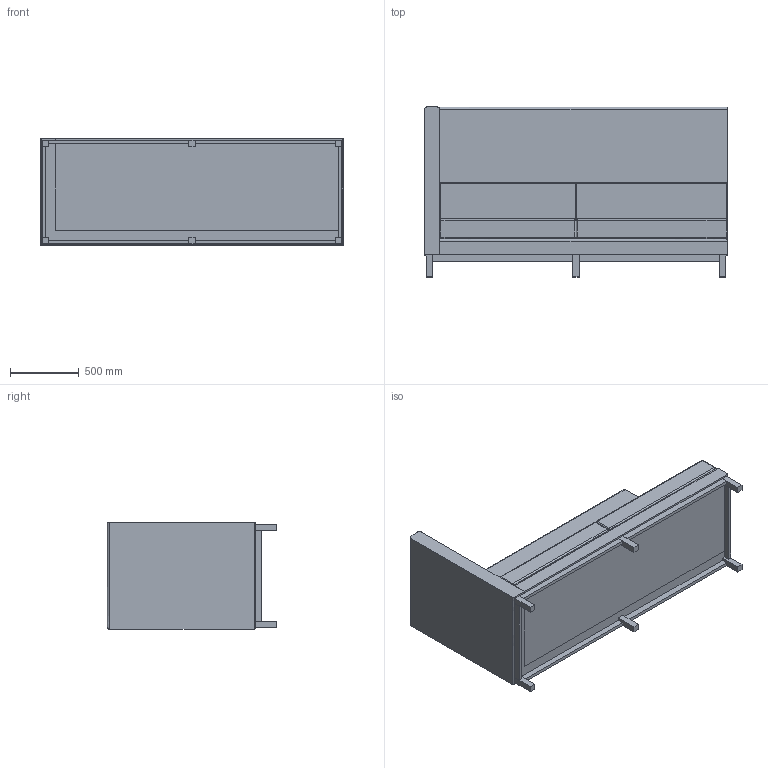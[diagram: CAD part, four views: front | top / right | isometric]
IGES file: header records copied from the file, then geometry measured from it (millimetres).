
Start section: SolidWorks IGES file using analytic representation for surfaces
Global section: file name: P:\3D CAD BLOCKS\ARTHUR CITYSCAPE\HB Plain Large RH\IGS\ART-HB-PLAIN-LARGE-RH-ART-CITY-RH.IGS; native system: SolidWorks 2012; preprocessor: SolidWorks 2012; author: tom; date: 160523.091830; units: millimetre
Bounding box: 2210 x 1240 x 780 mm (x, y, z)
Surface area: 16586263.8 mm2 (no closed solid volume)
Topology: 0 solids, 0 shells, 200 faces, 972 edges, 965 vertices
Faces by surface type: bspline 110, revolution 90
